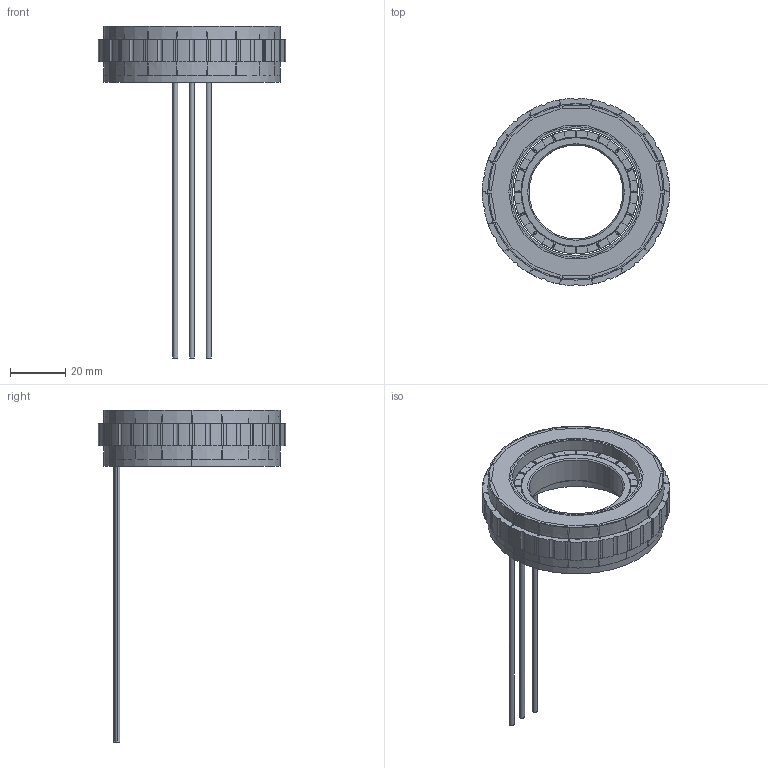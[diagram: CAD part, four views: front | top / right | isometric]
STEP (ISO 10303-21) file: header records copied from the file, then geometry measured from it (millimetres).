
FILE_DESCRIPTION (( 'STEP AP203' ), '1' );
FILE_NAME ('307090723SS 无框力矩电机（FMC06808-0015-3034N-8DS00）-V1.0.STEP', '2024-12-13T03:36:27', ( '' ), ( '' ), 'SwSTEP 2.0', 'SolidWorks 2023', '' );
FILE_SCHEMA (( 'CONFIG_CONTROL_DESIGN' ));
Length unit declared in the file: millimetre
Products named in the file (28): 10108060605 磁钢（68L8-16P-N45SH（S极）); 10108010268 定子铁芯（68L8-18Z(B35A300)含骨架）; 207012525 定子总成（68L8-1x0.42-50匝-2-16P星形）-V1.0; 复件 10212020102 电源线（AWM1332-18AWG 紫）^207012525 定子总成（68L8-1x0.42-50匝-2-16P星形）-V1.0; 10108040231 转子铁芯（68L8-16P（40Cr电镀））-V1.0; 复件 10212020100 电源线（AWM1332-18AWG 蓝）^207012525 定子总成（68L8-1x0.42-50匝-2-16P星形）-V1.0; 复件 10212010030 漆包线（QZY-2-180  0.42 GB6109.5-88）^207012525 定子总成（68L8-1x0.42-50匝-2-16P星形）-V1.0; 10108060604 磁钢（68L8-16P-N45SH（N极）); 307090723SS 无框力矩电机（FMC06808-0015-3034N-8DS00）-V1.0; 207042414 转子（FMC06808-0015-3034N-8DS00）-V1.0; 复件 10212020101 电源线（AWM1332-18AWG 棕）^207012525 定子总成（68L8-1x0.42-50匝-2-16P星形）-V1.0
Assembly tree (41 placements, depth 3):
  307090723SS 无框力矩电机（FMC06808-0015-3034N-8DS00）-V1.0
    207042414 转子（FMC06808-0015-3034N-8DS00）-V1.0
      10108040231 转子铁芯（68L8-16P（40Cr电镀））-V1.0
      10108060604 磁钢（68L8-16P-N45SH（N极）)  x8
      10108060605 磁钢（68L8-16P-N45SH（S极）)  x8
    207012525 定子总成（68L8-1x0.42-50匝-2-16P星形）-V1.0
      10108010268 定子铁芯（68L8-18Z(B35A300)含骨架）
      10108010268 定子铁芯（68L8-18Z(B35A300)含骨架）
      10108010268 定子铁芯（68L8-18Z(B35A300)含骨架）
      10108010268 定子铁芯（68L8-18Z(B35A300)含骨架）
      10108010268 定子铁芯（68L8-18Z(B35A300)含骨架）
      10108010268 定子铁芯（68L8-18Z(B35A300)含骨架）
      10108010268 定子铁芯（68L8-18Z(B35A300)含骨架）
      10108010268 定子铁芯（68L8-18Z(B35A300)含骨架）
      10108010268 定子铁芯（68L8-18Z(B35A300)含骨架）
      10108010268 定子铁芯（68L8-18Z(B35A300)含骨架）
      10108010268 定子铁芯（68L8-18Z(B35A300)含骨架）
      10108010268 定子铁芯（68L8-18Z(B35A300)含骨架）
      10108010268 定子铁芯（68L8-18Z(B35A300)含骨架）
      10108010268 定子铁芯（68L8-18Z(B35A300)含骨架）
      10108010268 定子铁芯（68L8-18Z(B35A300)含骨架）
      10108010268 定子铁芯（68L8-18Z(B35A300)含骨架）
      10108010268 定子铁芯（68L8-18Z(B35A300)含骨架）
      10108010268 定子铁芯（68L8-18Z(B35A300)含骨架）
      复件 10212010030 漆包线（QZY-2-180  0.42 GB6109.5-88）^207012525 定子总成（68L8-1x0.42-50匝-2-16P星形）-V1.0
      复件 10212020100 电源线（AWM1332-18AWG 蓝）^207012525 定子总成（68L8-1x0.42-50匝-2-16P星形）-V1.0
      复件 10212020101 电源线（AWM1332-18AWG 棕）^207012525 定子总成（68L8-1x0.42-50匝-2-16P星形）-V1.0
      复件 10212020102 电源线（AWM1332-18AWG 紫）^207012525 定子总成（68L8-1x0.42-50匝-2-16P星形）-V1.0
Bounding box: 67.98 x 67.98 x 120.5 mm (x, y, z)
Volume: 41939.8 mm3; surface area: 36772.1 mm2
Topology: 40 solids, 40 shells, 1908 faces, 5164 edges, 3368 vertices
Faces by surface type: plane 1124, bspline 368, cylinder 336, cone 80
Entity records: 46053 total; most frequent: CARTESIAN_POINT 10843, ORIENTED_EDGE 6800, DIRECTION 6542, EDGE_CURVE 3400, VECTOR 2242, LINE 2242, VERTEX_POINT 2192, AXIS2_PLACEMENT_3D 2150
